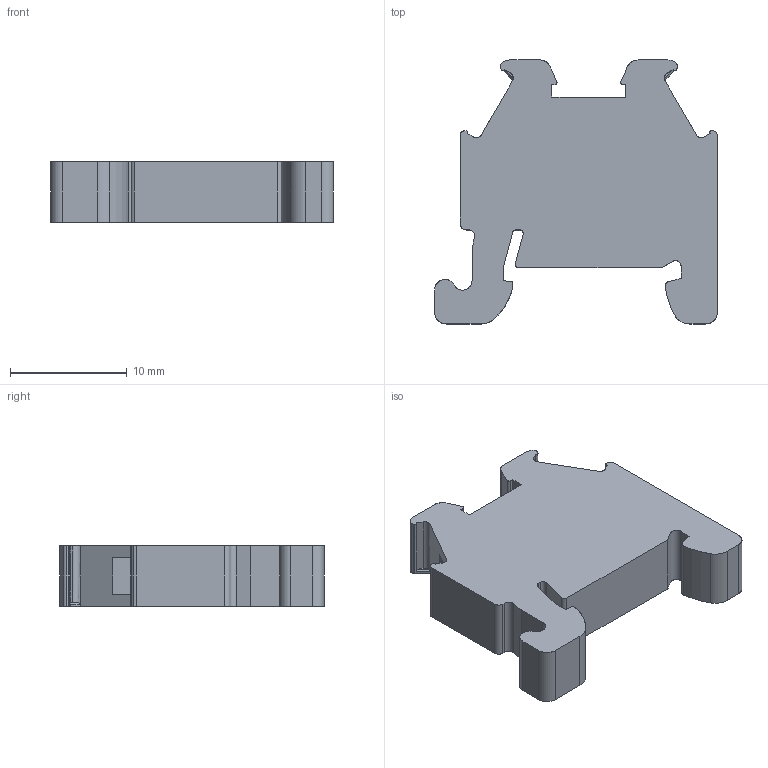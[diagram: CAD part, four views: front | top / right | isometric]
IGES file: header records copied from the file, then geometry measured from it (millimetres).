
Global section: file name: 3022263_clipfix15-select.igs; native system: OneSpace Designer 3D IGES; preprocessor: 13.01  05-Feb-2005; date: 20051109.064025; units: millimetre
Bounding box: 24.2 x 22.6 x 5.15 mm (x, y, z)
Surface area: 1457.2 mm2 (no closed solid volume)
Topology: 0 solids, 0 shells, 106 faces, 886 edges, 886 vertices
Faces by surface type: bspline 106
